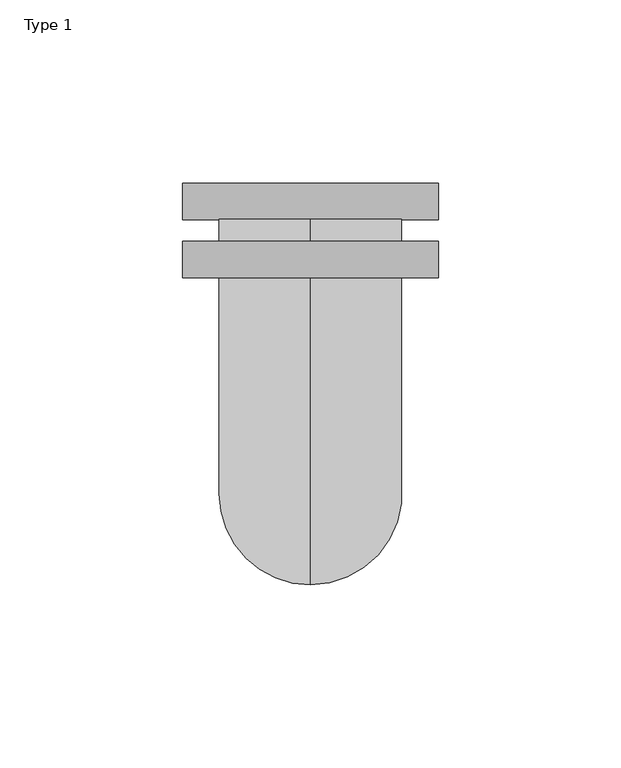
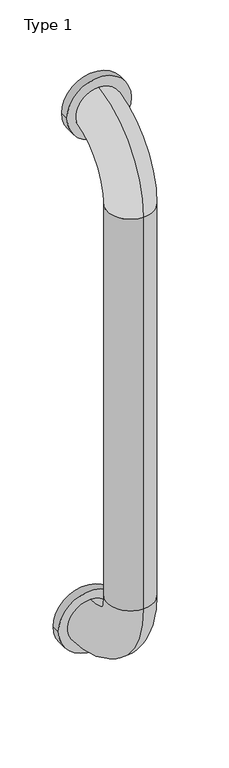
"""IFC4 building model written with IfcOpenShell, lengths in millimetres: proxy geometry, BIMHealth-Grab_Rail_Vertical-LOD2A-v1 : Type 1."""

from ifc_helpers import new_model, si_unit, point, frame, frame_2d, origin, place, context, project, spatial, circle_curve, ellipse_curve, trimmed, segment, composite_curve, outline, extrude, source, transform, mapped, element, save
from ifc_brep_helpers import plane_surface, cylinder_surface, revolved_surface, advanced_brep


def type_1_defd54e1(model_context):
    return source(origin(), model_context, "Body", "SolidModel", [
        advanced_brep(
        [(125.0, -160.0, 1325.0), (125.0, -160.0, 875.0), (125.0, -110.0, 875.0), (125.0, -110.0, 1325.0), (125.0, -60.0, 1375.0), (125.0, -60.0, 1425.0), (125.0, -60.0, 825.0), (125.0, -60.0, 775.0)],
        [
            (0, 1),
            (1, 2, circle_curve(frame((125.0, -135.0, 875.0), z_axis=(0.0, 0.0, 1.0), x_axis=(0.0, -1.0, 0.0)), 25.0)),
            (2, 3),
            (3, 0, circle_curve(frame((125.0, -135.0, 1325.0), z_axis=(0.0, 0.0, -1.0), x_axis=(0.0, -1.0, 0.0)), 25.0)),
            (2, 1, circle_curve(frame((125.0, -135.0, 875.0), z_axis=(0.0, 0.0, 1.0), x_axis=(0.0, -1.0, 0.0)), 25.0)),
            (0, 3, circle_curve(frame((125.0, -135.0, 1325.0), z_axis=(0.0, 0.0, -1.0), x_axis=(0.0, -1.0, 0.0)), 25.0)),
            (4, 5, circle_curve(frame((125.0, -60.0, 1400.0), z_axis=(0.0, 1.0, 0.0), x_axis=(0.0, 0.0, 1.0)), 25.0)),
            (5, 4, circle_curve(frame((125.0, -60.0, 1400.0), z_axis=(0.0, 1.0, 0.0), x_axis=(0.0, 0.0, 1.0)), 25.0)),
            (3, 4, circle_curve(frame((125.0, -60.0, 1325.0), z_axis=(-1.0, 0.0, 0.0), x_axis=(0.0, 0.0, 1.0)), 50.0)),
            (5, 0, circle_curve(frame((125.0, -60.0, 1325.0), z_axis=(1.0, 0.0, 0.0), x_axis=(0.0, 0.0, 1.0)), 100.0)),
            (6, 7, circle_curve(frame((125.0, -60.0, 800.0), z_axis=(0.0, 1.0, 0.0), x_axis=(0.0, 0.0, -1.0)), 25.0)),
            (7, 6, circle_curve(frame((125.0, -60.0, 800.0), z_axis=(0.0, 1.0, 0.0), x_axis=(0.0, 0.0, -1.0)), 25.0)),
            (6, 2, circle_curve(frame((125.0, -60.0, 875.0), z_axis=(-1.0, 0.0, 0.0), x_axis=(0.0, -1.0, 0.0)), 50.0)),
            (1, 7, circle_curve(frame((125.0, -60.0, 875.0), z_axis=(1.0, 0.0, 0.0), x_axis=(0.0, -1.0, 0.0)), 100.0)),
        ],
        [
            cylinder_surface(frame((125.0, -135.0, 1325.0), z_axis=(0.0, 0.0, 1.0), x_axis=(0.0, -1.0, 0.0)), 25.0),
            plane_surface(frame((125.0, -60.0, 1400.0), z_axis=(0.0, 1.0, 0.0), x_axis=(1.0, 0.0, 0.0))),
            revolved_surface(trimmed(ellipse_curve(frame((125.0, -60.0, 1400.0), z_axis=(0.0, -1.0, 0.0), x_axis=(0.0, 0.0, 1.0)), 25.0, 25.0), [point((125.0, -60.0, 1375.0))], [point((125.0, -60.0, 1425.0))], True, "CARTESIAN"), (125.0, -60.0, 1325.0), (-1.0, 0.0, 0.0)),
            revolved_surface(trimmed(ellipse_curve(frame((125.0, -60.0, 1400.0), z_axis=(0.0, -1.0, 0.0), x_axis=(0.0, 0.0, 1.0)), 25.0, 25.0), [point((125.0, -60.0, 1425.0))], [point((125.0, -60.0, 1375.0))], True, "CARTESIAN"), (125.0, -60.0, 1325.0), (-1.0, 0.0, 0.0)),
            plane_surface(frame((125.0, -60.0, 800.0), z_axis=(0.0, 1.0, 0.0), x_axis=(1.0, 0.0, 0.0))),
            revolved_surface(trimmed(ellipse_curve(frame((125.0, -135.0, 875.0), z_axis=(0.0, 0.0, -1.0), x_axis=(0.0, -1.0, 0.0)), 25.0, 25.0), [point((125.0, -110.0, 875.0))], [point((125.0, -160.0, 875.0))], True, "CARTESIAN"), (125.0, -60.0, 875.0), (-1.0, 0.0, 0.0)),
            revolved_surface(trimmed(ellipse_curve(frame((125.0, -135.0, 875.0), z_axis=(0.0, 0.0, -1.0), x_axis=(0.0, -1.0, 0.0)), 25.0, 25.0), [point((125.0, -160.0, 875.0))], [point((125.0, -110.0, 875.0))], True, "CARTESIAN"), (125.0, -60.0, 875.0), (-1.0, 0.0, 0.0)),
        ],
        [
            (0, [[1, 2, 3, 4]]),
            (0, [[-3, 5, -1, 6]]),
            (1, [[7, 8]]),
            (2, [[-4, 9, -8, 10]]),
            (3, [[-6, -10, -7, -9]]),
            (4, [[11, 12]]),
            (5, [[-11, 13, -2, 14]]),
            (6, [[-12, -14, -5, -13]]),
        ],
    ),
        extrude(outline(composite_curve([segment(trimmed(circle_curve(frame_2d((800.0, 125.0)), 35.0), [point((800.0, 160.0))], [point((800.0, 90.0))], False, "CARTESIAN"), True, "CONTINUOUS"), segment(trimmed(circle_curve(frame_2d((800.0, 125.0)), 35.0), [point((800.0, 90.0))], [point((800.0, 160.0))], False, "CARTESIAN"), True, "CONTINUOUS")], self_intersect=False)), frame((0.0, -60.0, 0.0), z_axis=(0.0, 1.0, 0.0), x_axis=(0.0, 0.0, 1.0)), (0.0, 0.0, 1.0), 10.0),
        extrude(outline(composite_curve([segment(trimmed(circle_curve(frame_2d((1400.0, 125.0)), 35.0), [point((1400.0, 160.0))], [point((1400.0, 90.0))], False, "CARTESIAN"), True, "CONTINUOUS"), segment(trimmed(circle_curve(frame_2d((1400.0, 125.0)), 35.0), [point((1400.0, 90.0))], [point((1400.0, 160.0))], False, "CARTESIAN"), True, "CONTINUOUS")], self_intersect=False)), frame((0.0, -76.0, 0.0), z_axis=(0.0, 1.0, 0.0), x_axis=(0.0, 0.0, 1.0)), (0.0, 0.0, 1.0), 10.0),
    ])


if __name__ == "__main__":
    model = new_model("IFC4")
    model_context = context("Model", 3, world=origin())
    ifc_project = project(units=[si_unit("LENGTHUNIT", "METRE", prefix="MILLI")], contexts=[model_context])
    site = spatial("IfcSite", under=ifc_project)
    building = spatial("IfcBuilding", under=site)
    placement = place(None, origin())
    type_1_shape = type_1_defd54e1(model_context)
    element("IfcBuildingElementProxy", 1, Name="BIMHealth-Grab_Rail_Vertical-LOD2A-v1 : Type 1", ObjectType="BIMHealth-Grab_Rail_Vertical-LOD2A-v1 : Type 1", at=placement, inside=building, context=model_context, shape_type="MappedRepresentation", body=[
        mapped(type_1_shape, transform((0.0, 0.0, 0.0), x_axis=(1.0, 0.0, 0.0), y_axis=(0.0, 1.0, 0.0), z_axis=(0.0, 0.0, 1.0))),
    ])
    save(model, "model.ifc")
